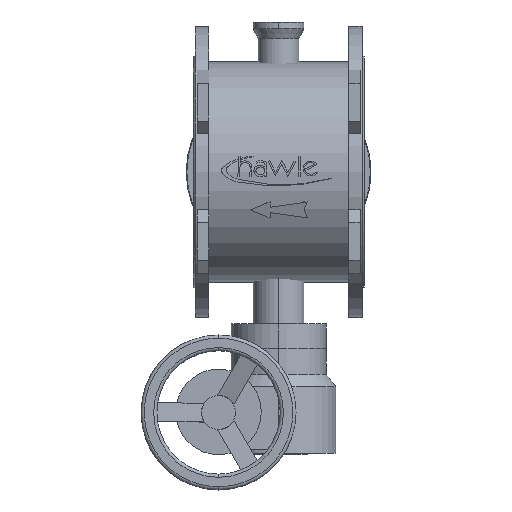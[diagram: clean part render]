
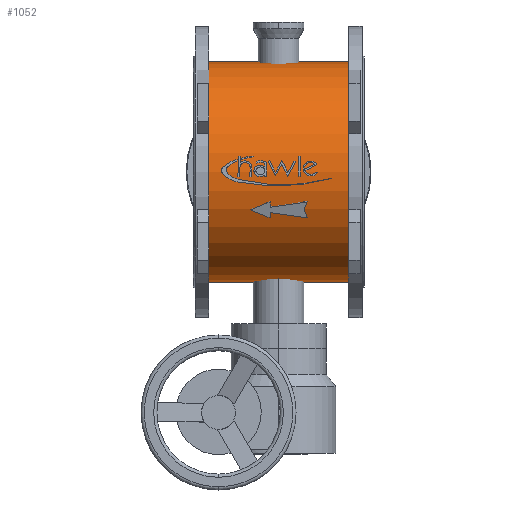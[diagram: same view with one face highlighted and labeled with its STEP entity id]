
A CAD part, top view. The second image highlights one B-rep face of the part: STEP entity #1052.
In plain terms, the highlighted cylindrical face has radius 174 mm (diameter 348 mm), a partial arc.
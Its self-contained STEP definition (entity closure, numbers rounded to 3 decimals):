
#1052=ADVANCED_FACE('',(#2189),#2190,.T.);
#2189=FACE_OUTER_BOUND('',#3782,.T.);
#2190=CYLINDRICAL_SURFACE('',#3783,174.0);
#3782=EDGE_LOOP('',(#5528,#5529,#5530,#5531));
#3783=AXIS2_PLACEMENT_3D('',#5532,#5533,#5534);
#5528=ORIENTED_EDGE('',*,*,#8671,.T.);
#5529=ORIENTED_EDGE('',*,*,#8672,.T.);
#5530=ORIENTED_EDGE('',*,*,#8673,.T.);
#5531=ORIENTED_EDGE('',*,*,#8674,.T.);
#5532=CARTESIAN_POINT('',(-245.5,0.,0.0));
#5533=DIRECTION('',(1.0,0.,0.0));
#5534=DIRECTION('',(0.,-1.0,0.0));
#8671=EDGE_CURVE('',#10310,#10311,#10312,.T.);
#8672=EDGE_CURVE('',#10311,#10313,#10314,.T.);
#8673=EDGE_CURVE('',#10313,#10315,#10316,.T.);
#8674=EDGE_CURVE('',#10315,#10310,#10317,.T.);
#10310=VERTEX_POINT('',#12429);
#10311=VERTEX_POINT('',#12430);
#10312=LINE('',#12431,#12432);
#10313=VERTEX_POINT('',#12433);
#10314=CIRCLE('',#12434,174.0);
#10315=VERTEX_POINT('',#12435);
#10316=LINE('',#12436,#12437);
#10317=CIRCLE('',#12438,174.0);
#12429=CARTESIAN_POINT('',(-245.5,-174.0,0.0));
#12430=CARTESIAN_POINT('',(-24.5,-174.0,0.0));
#12431=CARTESIAN_POINT('',(-245.5,-174.0,0.));
#12432=VECTOR('',#14703,1.0);
#12433=CARTESIAN_POINT('',(-24.5,174.0,0.));
#12434=AXIS2_PLACEMENT_3D('',#14704,#14705,#14706);
#12435=CARTESIAN_POINT('',(-245.5,174.0,0.));
#12436=CARTESIAN_POINT('',(-245.5,174.0,0.));
#12437=VECTOR('',#14707,1.0);
#12438=AXIS2_PLACEMENT_3D('',#14708,#14709,#14710);
#14703=DIRECTION('',(1.0,0.,0.0));
#14704=CARTESIAN_POINT('',(-24.5,0.,0.0));
#14705=DIRECTION('',(-1.0,0.,0.0));
#14706=DIRECTION('',(0.,-1.0,0.0));
#14707=DIRECTION('',(-1.0,0.,-0.0));
#14708=CARTESIAN_POINT('',(-245.5,0.,0.0));
#14709=DIRECTION('',(1.0,0.,0.0));
#14710=DIRECTION('',(0.,-1.0,0.0));
